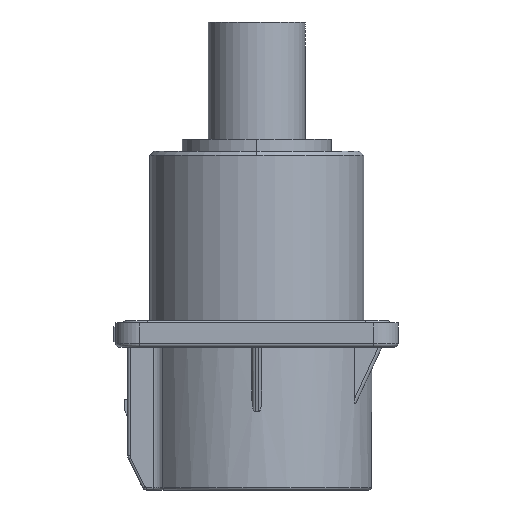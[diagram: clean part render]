
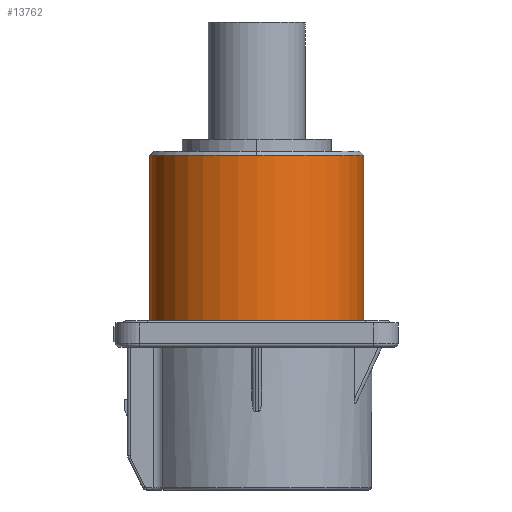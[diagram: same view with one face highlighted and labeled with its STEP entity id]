
A CAD part, front view. The second image highlights one B-rep face of the part: STEP entity #13762.
In plain terms, the highlighted cylindrical face has radius 13.25 mm (diameter 26.5 mm), a partial arc.
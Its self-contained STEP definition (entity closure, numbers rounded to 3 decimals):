
#130 = DIRECTION ( 'NONE',  ( 0., -1., 0. ) ) ;
#1254 = CARTESIAN_POINT ( 'NONE',  ( -12.273, 1.203, 0.3 ) ) ;
#2230 = EDGE_CURVE ( 'NONE', #8193, #15325, #16122, .T. ) ;
#2978 = EDGE_CURVE ( 'NONE', #14238, #16017, #6907, .T. ) ;
#3128 = AXIS2_PLACEMENT_3D ( 'NONE', #11856, #11839, #11790 ) ;
#3440 = LINE ( 'NONE', #14864, #16908 ) ;
#3683 = EDGE_LOOP ( 'NONE', ( #14628, #14648, #14744, #6126, #9543 ) ) ;
#4768 = VECTOR ( 'NONE', #9294, 1000. ) ;
#5417 = LINE ( 'NONE', #9272, #4768 ) ;
#5565 = CARTESIAN_POINT ( 'NONE',  ( 0.977, 1.203, 21.3 ) ) ;
#5583 = DIRECTION ( 'NONE',  ( 0., 0., -1. ) ) ;
#6126 = ORIENTED_EDGE ( 'NONE', *, *, #10607, .T. ) ;
#6644 = DIRECTION ( 'NONE',  ( 1., 0., 0. ) ) ;
#6664 = DIRECTION ( 'NONE',  ( 0., 0., -1. ) ) ;
#6668 = CARTESIAN_POINT ( 'NONE',  ( 0.977, 1.203, 0.3 ) ) ;
#6907 = CIRCLE ( 'NONE', #16295, 13.25 ) ;
#7880 = CARTESIAN_POINT ( 'NONE',  ( -12.273, 1.203, 21.3 ) ) ;
#8126 = AXIS2_PLACEMENT_3D ( 'NONE', #11910, #12641, #11517 ) ;
#8193 = VERTEX_POINT ( 'NONE', #10423 ) ;
#8372 = EDGE_CURVE ( 'NONE', #14238, #8193, #5417, .T. ) ;
#8710 = AXIS2_PLACEMENT_3D ( 'NONE', #6668, #6664, #6644 ) ;
#8779 = CYLINDRICAL_SURFACE ( 'NONE', #8126, 13.25 ) ;
#9105 = CARTESIAN_POINT ( 'NONE',  ( 14.227, 1.203, 21.3 ) ) ;
#9240 = FACE_OUTER_BOUND ( 'NONE', #3683, .T. ) ;
#9272 = CARTESIAN_POINT ( 'NONE',  ( 14.227, 1.203, -14.785 ) ) ;
#9294 = DIRECTION ( 'NONE',  ( 0., 0., -1. ) ) ;
#9543 = ORIENTED_EDGE ( 'NONE', *, *, #2230, .F. ) ;
#10423 = CARTESIAN_POINT ( 'NONE',  ( 14.227, 1.203, 0.3 ) ) ;
#10607 = EDGE_CURVE ( 'NONE', #14890, #15325, #3440, .T. ) ;
#11117 = EDGE_CURVE ( 'NONE', #16017, #14890, #15534, .T. ) ;
#11517 = DIRECTION ( 'NONE',  ( -1., 0., 0. ) ) ;
#11790 = DIRECTION ( 'NONE',  ( 0., -1., 0. ) ) ;
#11839 = DIRECTION ( 'NONE',  ( 0., 0., -1. ) ) ;
#11856 = CARTESIAN_POINT ( 'NONE',  ( 0.977, 1.203, 21.3 ) ) ;
#11910 = CARTESIAN_POINT ( 'NONE',  ( 0.977, 1.203, -14.785 ) ) ;
#12267 = CARTESIAN_POINT ( 'NONE',  ( 0.977, -12.047, 21.3 ) ) ;
#12641 = DIRECTION ( 'NONE',  ( 0., 0., -1. ) ) ;
#13762 = ADVANCED_FACE ( 'NONE', ( #9240 ), #8779, .T. ) ;
#14238 = VERTEX_POINT ( 'NONE', #9105 ) ;
#14628 = ORIENTED_EDGE ( 'NONE', *, *, #8372, .F. ) ;
#14648 = ORIENTED_EDGE ( 'NONE', *, *, #2978, .T. ) ;
#14744 = ORIENTED_EDGE ( 'NONE', *, *, #11117, .T. ) ;
#14864 = CARTESIAN_POINT ( 'NONE',  ( -12.273, 1.203, -14.785 ) ) ;
#14890 = VERTEX_POINT ( 'NONE', #7880 ) ;
#14988 = DIRECTION ( 'NONE',  ( 0., 0., -1. ) ) ;
#15325 = VERTEX_POINT ( 'NONE', #1254 ) ;
#15534 = CIRCLE ( 'NONE', #3128, 13.25 ) ;
#16017 = VERTEX_POINT ( 'NONE', #12267 ) ;
#16122 = CIRCLE ( 'NONE', #8710, 13.25 ) ;
#16295 = AXIS2_PLACEMENT_3D ( 'NONE', #5565, #5583, #130 ) ;
#16908 = VECTOR ( 'NONE', #14988, 1000. ) ;
